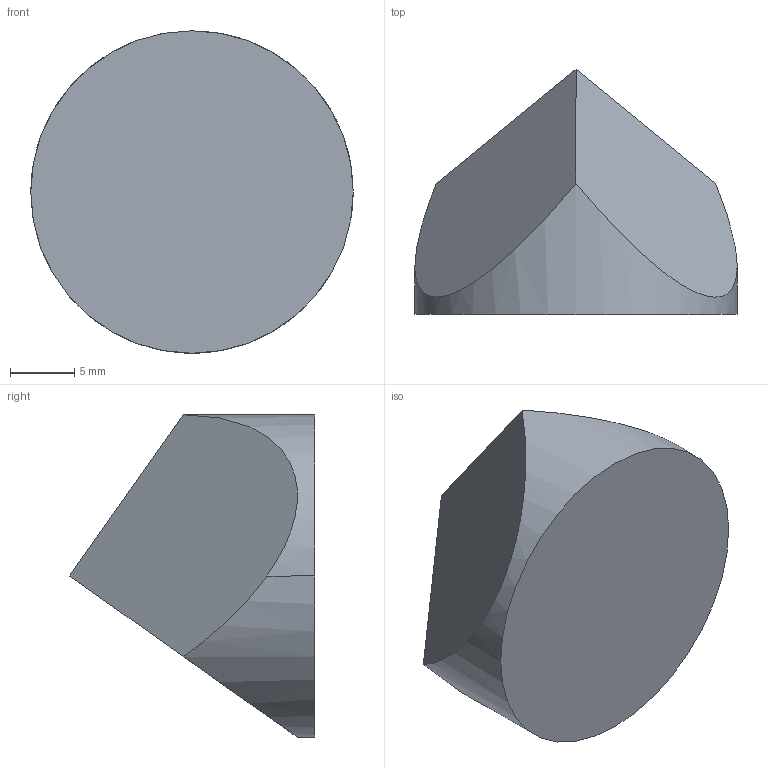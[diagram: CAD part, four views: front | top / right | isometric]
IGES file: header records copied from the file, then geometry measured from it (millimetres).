
Global section: file name: No Iges File Name specified; native system: AutoDesk Inventor R12.0; preprocessor: AutoDesk Inventor Iges Exporter R12.0; date: 20090528.085557; units: millimetre
Bounding box: 25 x 19 x 25 mm (x, y, z)
Volume: 4542.4 mm3; surface area: 1685.2 mm2
Topology: 1 solids, 1 shells, 6 faces, 12 edges, 8 vertices
Faces by surface type: plane 4, cylinder 2
